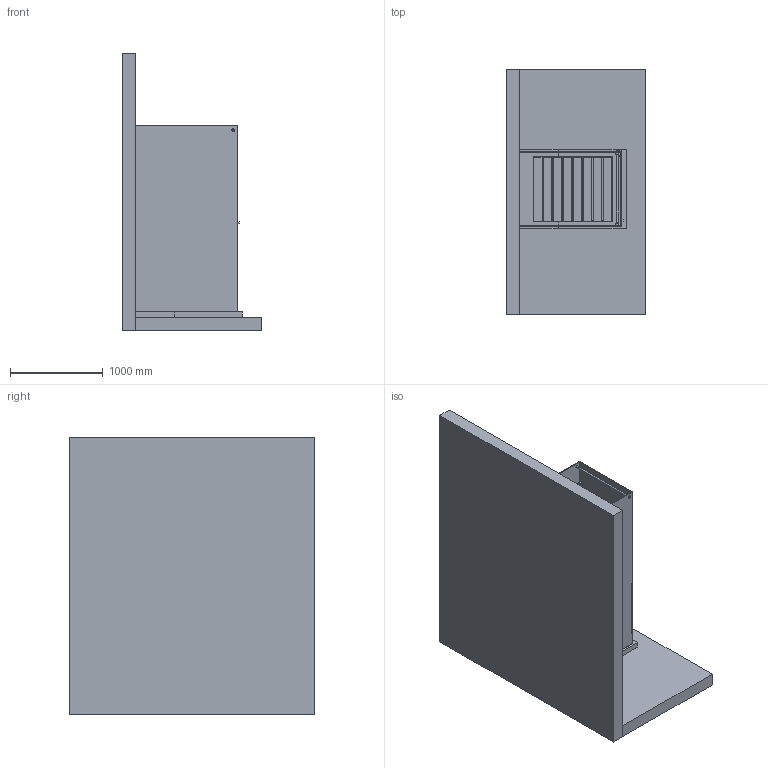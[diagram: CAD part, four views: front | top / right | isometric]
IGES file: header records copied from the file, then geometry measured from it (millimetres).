
Global section: file name: \\Archi-NAS\Comune\X GIOVANNI\SCHEDE PRODOTTO\BOX DOCCIA\DISEGNI 3D\BX 300\MOMA DESIGN_BOX DOCCIA_BX301.igs; native system: Rhinoceros ( Jan 17 2018 ); preprocessor: Trout Lake IGES 012 Jan 17 2018; date: 230623.091535; units: millimetre
Bounding box: 1502.28 x 2641.25 x 2983.36 mm (x, y, z)
Surface area: 41058626.3 mm2 (no closed solid volume)
Topology: 0 solids, 0 shells, 600 faces, 3983 edges, 4805 vertices
Faces by surface type: bspline 600
